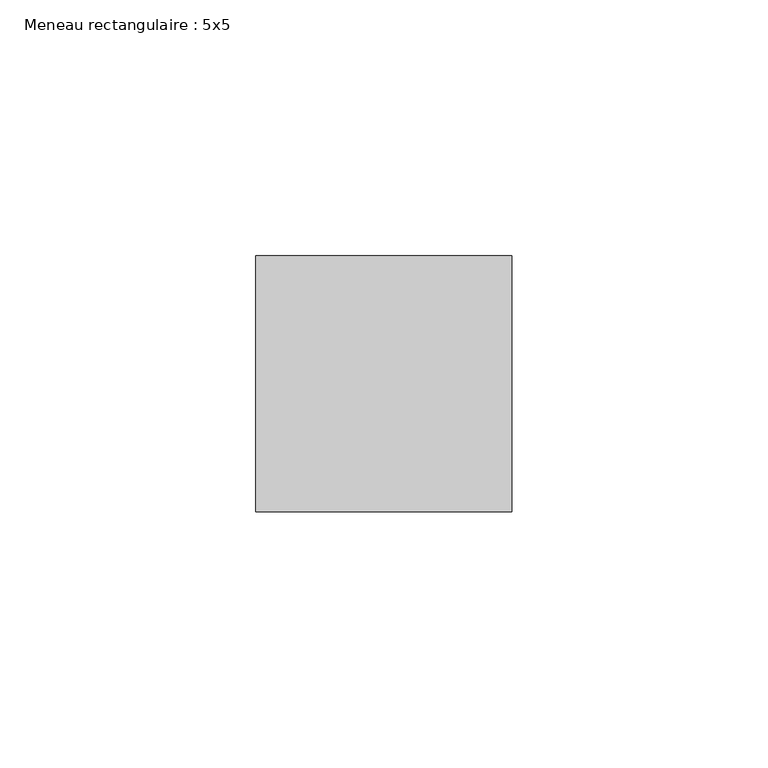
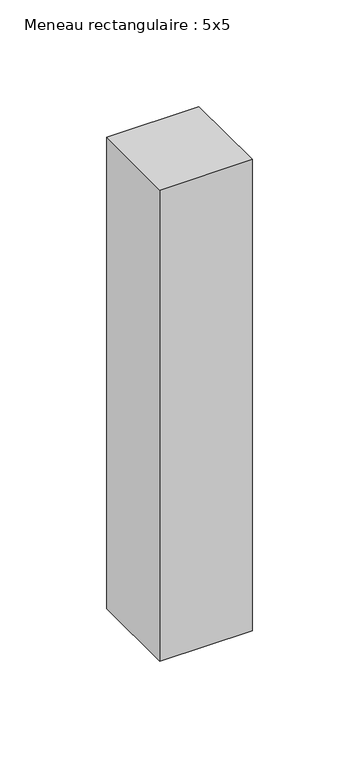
"""IFC4 building model written with IfcOpenShell, lengths in millimetres: member geometry, Meneau rectangulaire : 5x5."""

from ifc_helpers import new_model, si_unit, frame, origin, place, context, project, spatial, polyline, outline, extrude, source, transform, mapped, element, save


def meneau_rectangulaire_5x5_267ce358(model_context):
    return source(origin(), model_context, "Body", "SweptSolid", [
        extrude(outline(polyline([(0.0, 25.0), (0.0, -25.0), (-50.0, -25.0), (-50.0, 25.0), (0.0, 25.0)])), frame((0.0, 0.0, -270.0), z_axis=(0.0, 0.0, 1.0), x_axis=(1.0, 0.0, 0.0)), (0.0, 0.0, 1.0), 270.0),
    ])


if __name__ == "__main__":
    model = new_model("IFC4")
    model_context = context("Model", 3, world=origin())
    ifc_project = project(units=[si_unit("LENGTHUNIT", "METRE", prefix="MILLI")], contexts=[model_context])
    site = spatial("IfcSite", under=ifc_project)
    building = spatial("IfcBuilding", under=site)
    placement = place(None, origin())
    meneau_rectangulaire_5x5_shape = meneau_rectangulaire_5x5_267ce358(model_context)
    element("IfcMember", 1, ObjectType="Meneau rectangulaire : 5x5", at=placement, inside=building, context=model_context, shape_type="MappedRepresentation", body=[
        mapped(meneau_rectangulaire_5x5_shape, transform((0.0, 0.0, 0.0), x_axis=(1.0, 0.0, 0.0), y_axis=(0.0, 1.0, 0.0), z_axis=(0.0, 0.0, 1.0))),
    ])
    save(model, "model.ifc")
